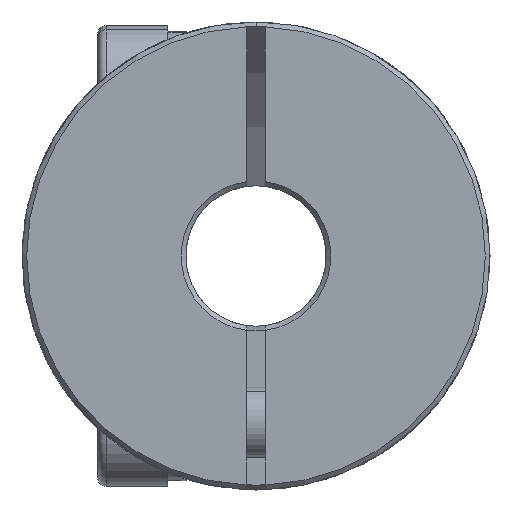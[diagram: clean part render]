
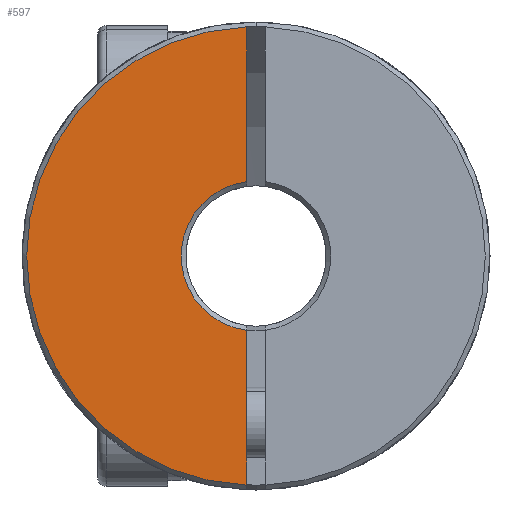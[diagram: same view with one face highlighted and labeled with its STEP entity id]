
A CAD part, front view. The second image highlights one B-rep face of the part: STEP entity #597.
In plain terms, the highlighted planar face has unit normal (0, -1, 0).
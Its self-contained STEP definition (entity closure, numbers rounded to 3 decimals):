
#38 = CARTESIAN_POINT ( 'NONE',  ( -0.4, -17.5, 9.792 ) ) ;
#74 = ORIENTED_EDGE ( 'NONE', *, *, #3045, .F. ) ;
#118 = ORIENTED_EDGE ( 'NONE', *, *, #2691, .T. ) ;
#128 = CARTESIAN_POINT ( 'NONE',  ( -0.4, -17.5, 0. ) ) ;
#191 = DIRECTION ( 'NONE',  ( 0., 1., 0. ) ) ;
#256 = EDGE_LOOP ( 'NONE', ( #74, #118, #3015, #910 ) ) ;
#560 = EDGE_CURVE ( 'NONE', #5736, #893, #2910, .T. ) ;
#597 = ADVANCED_FACE ( 'NONE', ( #4817 ), #4862, .F. ) ;
#828 = DIRECTION ( 'NONE',  ( 0., 1., 0. ) ) ;
#863 = DIRECTION ( 'NONE',  ( 0., 0., -1. ) ) ;
#893 = VERTEX_POINT ( 'NONE', #4584 ) ;
#910 = ORIENTED_EDGE ( 'NONE', *, *, #560, .T. ) ;
#1384 = CARTESIAN_POINT ( 'NONE',  ( -0.4, -17.5, 0. ) ) ;
#1515 = CIRCLE ( 'NONE', #2770, 9.8 ) ;
#1800 = AXIS2_PLACEMENT_3D ( 'NONE', #3683, #191, #7232 ) ;
#1822 = CARTESIAN_POINT ( 'NONE',  ( -0.4, -17.5, -3.175 ) ) ;
#1921 = DIRECTION ( 'NONE',  ( 0., 0., -1. ) ) ;
#2691 = EDGE_CURVE ( 'NONE', #5490, #6731, #1515, .T. ) ;
#2770 = AXIS2_PLACEMENT_3D ( 'NONE', #3213, #6107, #3829 ) ;
#2910 = CIRCLE ( 'NONE', #3446, 3.2 ) ;
#3015 = ORIENTED_EDGE ( 'NONE', *, *, #4827, .F. ) ;
#3045 = EDGE_CURVE ( 'NONE', #5490, #893, #3332, .T. ) ;
#3213 = CARTESIAN_POINT ( 'NONE',  ( 0., -17.5, 0. ) ) ;
#3332 = LINE ( 'NONE', #1384, #4247 ) ;
#3446 = AXIS2_PLACEMENT_3D ( 'NONE', #6648, #828, #4797 ) ;
#3683 = CARTESIAN_POINT ( 'NONE',  ( 0., -17.5, 0. ) ) ;
#3829 = DIRECTION ( 'NONE',  ( 0., 0., 1. ) ) ;
#4247 = VECTOR ( 'NONE', #863, 1000. ) ;
#4584 = CARTESIAN_POINT ( 'NONE',  ( -0.4, -17.5, 3.175 ) ) ;
#4797 = DIRECTION ( 'NONE',  ( 0., 0., 1. ) ) ;
#4817 = FACE_OUTER_BOUND ( 'NONE', #256, .T. ) ;
#4827 = EDGE_CURVE ( 'NONE', #5736, #6731, #4956, .T. ) ;
#4862 = PLANE ( 'NONE',  #1800 ) ;
#4956 = LINE ( 'NONE', #128, #7339 ) ;
#5425 = CARTESIAN_POINT ( 'NONE',  ( -0.4, -17.5, -9.792 ) ) ;
#5490 = VERTEX_POINT ( 'NONE', #38 ) ;
#5736 = VERTEX_POINT ( 'NONE', #1822 ) ;
#6107 = DIRECTION ( 'NONE',  ( 0., -1., 0. ) ) ;
#6648 = CARTESIAN_POINT ( 'NONE',  ( 0., -17.5, 0. ) ) ;
#6731 = VERTEX_POINT ( 'NONE', #5425 ) ;
#7232 = DIRECTION ( 'NONE',  ( 0., 0., 1. ) ) ;
#7339 = VECTOR ( 'NONE', #1921, 1000. ) ;
